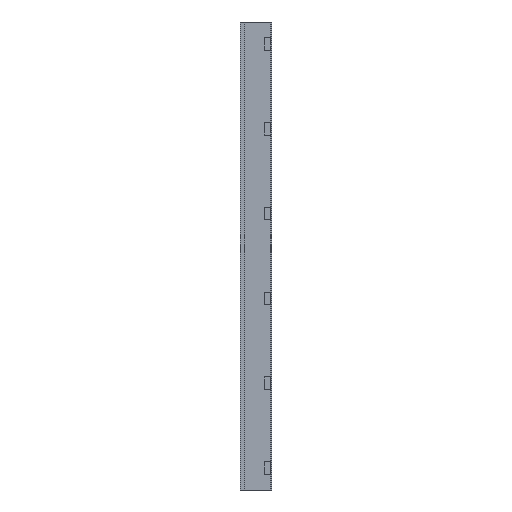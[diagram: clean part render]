
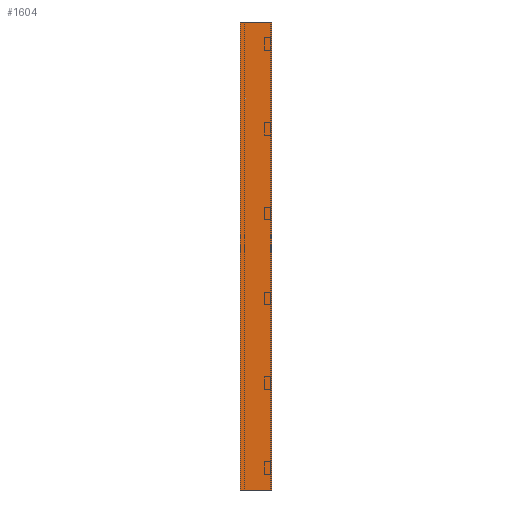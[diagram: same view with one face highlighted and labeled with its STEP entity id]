
A CAD part, left-side view. The second image highlights one B-rep face of the part: STEP entity #1604.
In plain terms, the highlighted planar face has unit normal (-1, 0, 0).
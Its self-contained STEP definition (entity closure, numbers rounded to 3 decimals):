
#40 = AXIS2_PLACEMENT_3D ( 'NONE', #554, #1087, #1473 ) ;
#160 = VECTOR ( 'NONE', #1580, 1000. ) ;
#162 = CARTESIAN_POINT ( 'NONE',  ( 0., 0., -1500. ) ) ;
#168 = VERTEX_POINT ( 'NONE', #996 ) ;
#292 = EDGE_CURVE ( 'NONE', #363, #168, #1176, .T. ) ;
#357 = VERTEX_POINT ( 'NONE', #1250 ) ;
#363 = VERTEX_POINT ( 'NONE', #162 ) ;
#365 = ORIENTED_EDGE ( 'NONE', *, *, #1587, .F. ) ;
#481 = ORIENTED_EDGE ( 'NONE', *, *, #292, .T. ) ;
#522 = VECTOR ( 'NONE', #1076, 1000. ) ;
#554 = CARTESIAN_POINT ( 'NONE',  ( 0., 0., -1500. ) ) ;
#640 = LINE ( 'NONE', #1164, #1446 ) ;
#653 = VERTEX_POINT ( 'NONE', #1161 ) ;
#833 = PLANE ( 'NONE',  #40 ) ;
#860 = EDGE_CURVE ( 'NONE', #653, #363, #1115, .T. ) ;
#877 = EDGE_LOOP ( 'NONE', ( #1030, #365, #1450, #481 ) ) ;
#957 = CARTESIAN_POINT ( 'NONE',  ( 0., 100., -1500. ) ) ;
#996 = CARTESIAN_POINT ( 'NONE',  ( 0., 0., 0. ) ) ;
#1030 = ORIENTED_EDGE ( 'NONE', *, *, #1635, .F. ) ;
#1076 = DIRECTION ( 'NONE',  ( 0., 0., 1. ) ) ;
#1087 = DIRECTION ( 'NONE',  ( -1., 0., 0. ) ) ;
#1115 = LINE ( 'NONE', #1492, #1586 ) ;
#1161 = CARTESIAN_POINT ( 'NONE',  ( 0., 100., -1500. ) ) ;
#1164 = CARTESIAN_POINT ( 'NONE',  ( 0., 0., 0. ) ) ;
#1176 = LINE ( 'NONE', #1566, #160 ) ;
#1218 = LINE ( 'NONE', #957, #522 ) ;
#1250 = CARTESIAN_POINT ( 'NONE',  ( 0., 100., 0. ) ) ;
#1253 = DIRECTION ( 'NONE',  ( 0., -1., 0. ) ) ;
#1446 = VECTOR ( 'NONE', #1679, 1000. ) ;
#1450 = ORIENTED_EDGE ( 'NONE', *, *, #860, .T. ) ;
#1473 = DIRECTION ( 'NONE',  ( 0., 0., 1. ) ) ;
#1492 = CARTESIAN_POINT ( 'NONE',  ( 0., 0., -1500. ) ) ;
#1566 = CARTESIAN_POINT ( 'NONE',  ( 0., 0., -1500. ) ) ;
#1580 = DIRECTION ( 'NONE',  ( 0., 0., 1. ) ) ;
#1586 = VECTOR ( 'NONE', #1253, 1000. ) ;
#1587 = EDGE_CURVE ( 'NONE', #653, #357, #1218, .T. ) ;
#1593 = FACE_OUTER_BOUND ( 'NONE', #877, .T. ) ;
#1604 = ADVANCED_FACE ( 'NONE', ( #1593 ), #833, .T. ) ;
#1635 = EDGE_CURVE ( 'NONE', #357, #168, #640, .T. ) ;
#1679 = DIRECTION ( 'NONE',  ( 0., -1., 0. ) ) ;
